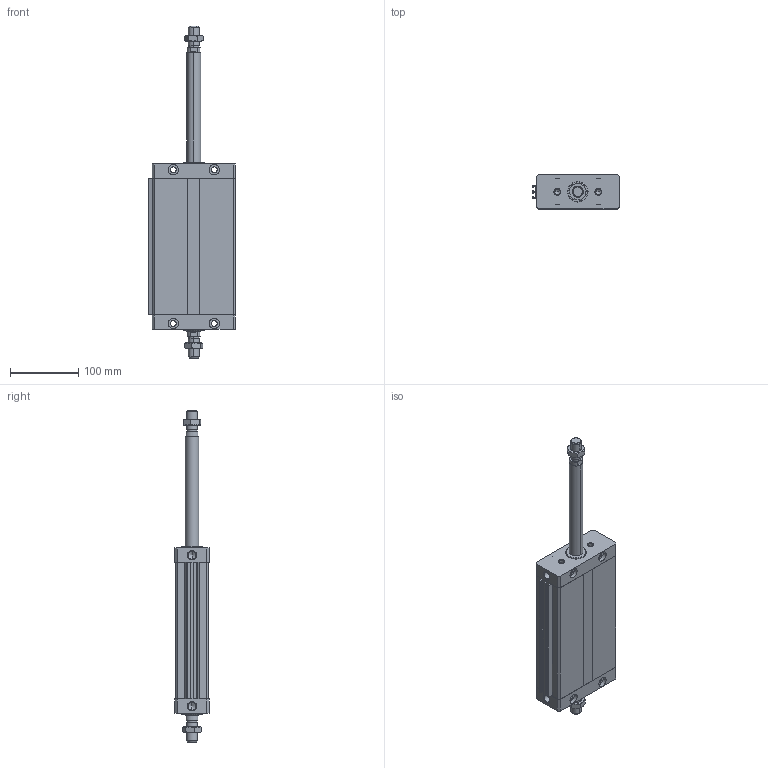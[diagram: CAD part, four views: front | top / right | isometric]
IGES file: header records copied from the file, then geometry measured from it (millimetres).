
Global section: file name: No Iges File Name specified; native system: Autodesk Inventor 2011; preprocessor: AutoDesk Inventor Iges Exporter R2011; author: airolcr1; date: 20101213.153540; units: millimetre
Bounding box: 126.75 x 50 x 486 mm (x, y, z)
Volume: 1021560.1 mm3; surface area: 227805.7 mm2
Topology: 6 solids, 6 shells, 280 faces, 664 edges, 396 vertices
Faces by surface type: bspline 114, plane 98, cone 36, cylinder 18, revolution 14
